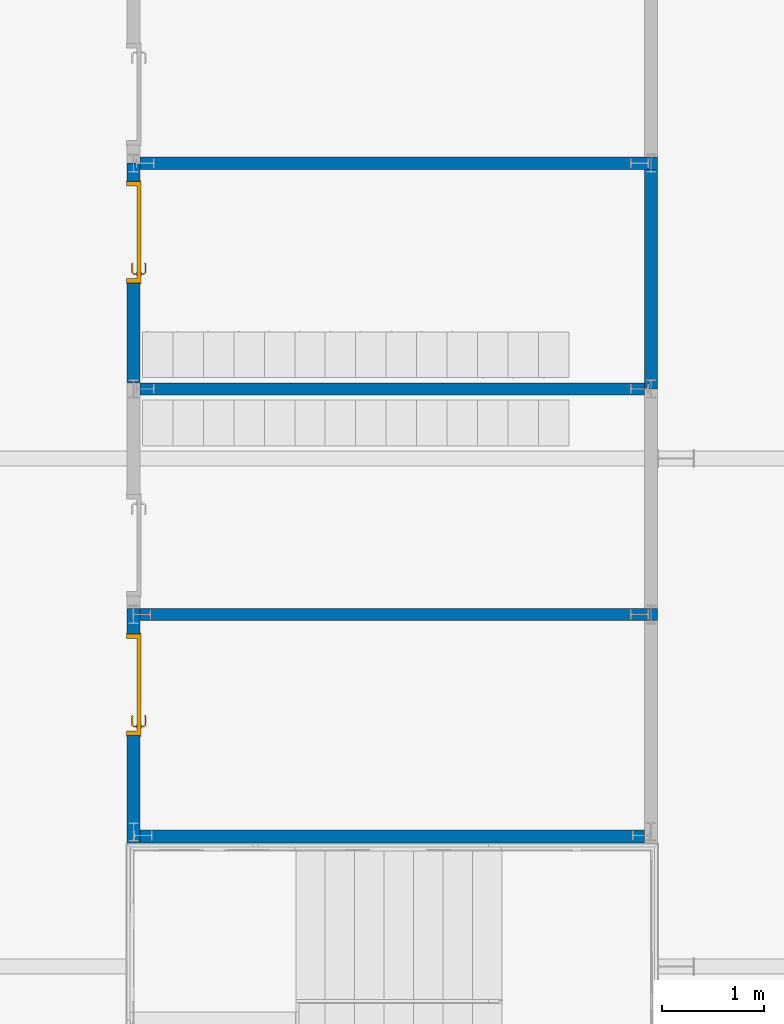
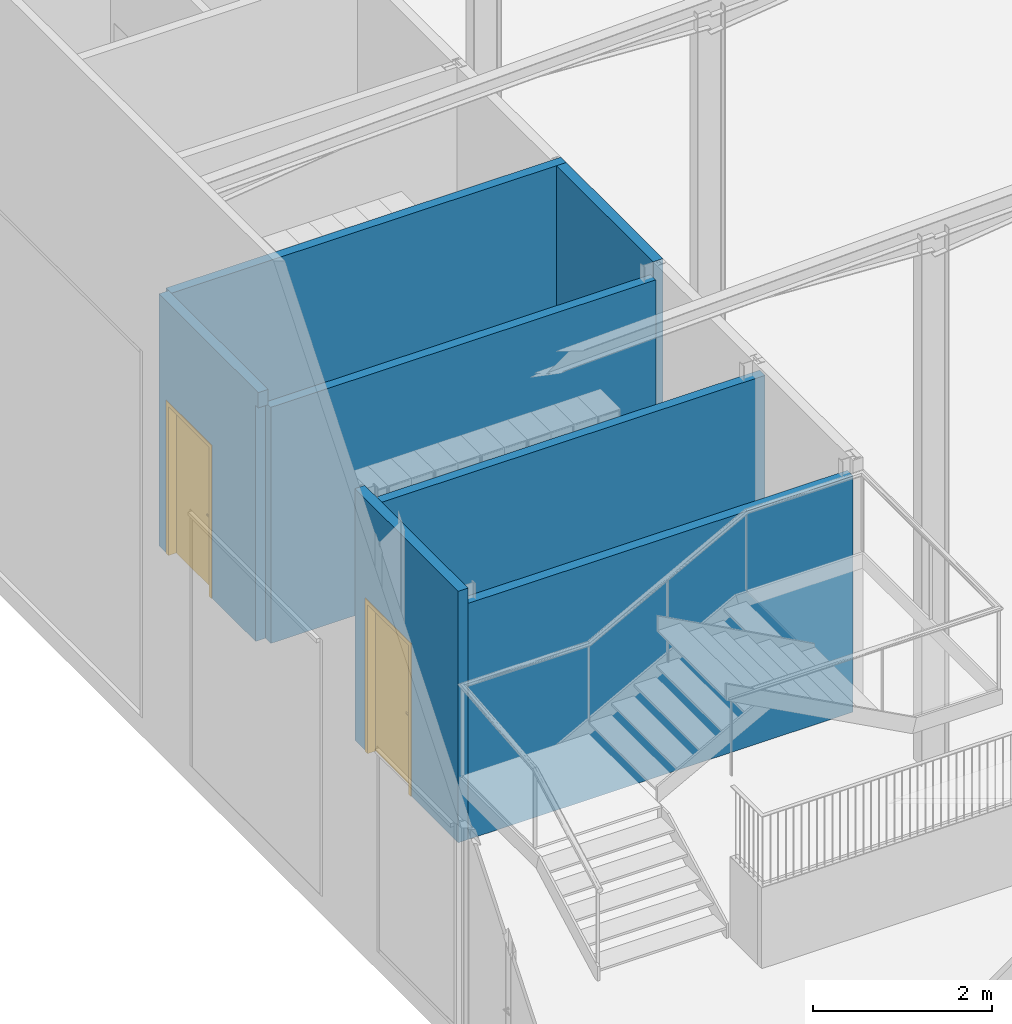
# One storey, part 48 of 137: 7 walls, 2 doors, 2 openings.
"""IFC2X3 building model written with IfcOpenShell, lengths in centimetres."""

from ifc_helpers import new_model, entity, si_unit, converted_unit, derived_unit, direction, frame, frame_2d, origin, place, context, subcontext, project, spatial, polyline, rectangle, extrude, clip, halfspace, bounded_halfspace, faceted_brep, source, transform, mapped, material, material_list, layer, layer_set, layer_usage, type_object, type_shapes, element, fill, save


model = new_model("IFC2X3")

# Units and contexts
model_context = context("Model", 3, precision=0.001, world=origin(), true_north=direction((6.12303176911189e-17, 1.0)))
body_context = subcontext(model_context, "Body", "Model", "MODEL_VIEW")
ifc_project = project(units=[si_unit("LENGTHUNIT", "METRE", prefix="CENTI"), si_unit("AREAUNIT", "SQUARE_METRE"), si_unit("VOLUMEUNIT", "CUBIC_METRE"), converted_unit("PLANEANGLEUNIT", "DEGREE", entity("IfcRatioMeasure", 0.0174532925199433), si_unit("PLANEANGLEUNIT", "RADIAN"), dimensions=[0, 0, 0, 0, 0, 0, 0]), si_unit("MASSUNIT", "GRAM", prefix="KILO"), si_unit("TIMEUNIT", "SECOND"), si_unit("FREQUENCYUNIT", "HERTZ"), si_unit("THERMODYNAMICTEMPERATUREUNIT", "DEGREE_CELSIUS"), derived_unit("THERMALTRANSMITTANCEUNIT", [(si_unit("MASSUNIT", "GRAM", prefix="KILO"), 1), (si_unit("THERMODYNAMICTEMPERATUREUNIT", "KELVIN"), -1), (si_unit("TIMEUNIT", "SECOND"), -3)]), derived_unit("VOLUMETRICFLOWRATEUNIT", [(si_unit("LENGTHUNIT", "METRE"), 3), (si_unit("TIMEUNIT", "SECOND"), -1)]), si_unit("ELECTRICCURRENTUNIT", "AMPERE"), si_unit("ELECTRICVOLTAGEUNIT", "VOLT"), si_unit("POWERUNIT", "WATT"), si_unit("FORCEUNIT", "NEWTON", prefix="KILO"), si_unit("ILLUMINANCEUNIT", "LUX"), si_unit("LUMINOUSFLUXUNIT", "LUMEN"), si_unit("LUMINOUSINTENSITYUNIT", "CANDELA"), derived_unit("USERDEFINED", [(si_unit("MASSUNIT", "GRAM", prefix="KILO"), -1), (si_unit("LENGTHUNIT", "METRE"), -2), (si_unit("TIMEUNIT", "SECOND"), 3), (si_unit("LUMINOUSFLUXUNIT", "LUMEN"), 1)]), derived_unit("LINEARVELOCITYUNIT", [(si_unit("LENGTHUNIT", "METRE"), 1), (si_unit("TIMEUNIT", "SECOND"), -1)]), si_unit("PRESSUREUNIT", "PASCAL"), derived_unit("USERDEFINED", [(si_unit("LENGTHUNIT", "METRE"), -2), (si_unit("MASSUNIT", "GRAM", prefix="KILO"), 1), (si_unit("TIMEUNIT", "SECOND"), -2)])], contexts=[model_context])

# Site, building, storey
site_placement = place(None, frame((8.62739174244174, -249.285249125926, 0.0)))
site = spatial("IfcSite", under=ifc_project, at=site_placement, Name="Default", CompositionType="ELEMENT")
building_placement = place(site_placement, origin())
building = spatial("IfcBuilding", under=site, at=building_placement, CompositionType="ELEMENT")
storey_placement = place(building_placement, origin())
storey = spatial("IfcBuildingStorey", under=building, at=storey_placement, Name="RDC", CompositionType="ELEMENT", Elevation=-8.82465566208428e-11)

# Wall, opening, door
ifc_material_1 = material(Name="Tôle/Doublage")
ifc_layer_1 = layer(ifc_material_1, 2.0)
ifc_material_2 = material(Name="Laine minérale")
ifc_layer_2 = layer(ifc_material_2, 9.5)
ifc_material_3 = material(Name="Plâtre_MU")
ifc_layer_3 = layer(ifc_material_3, 1.25)
ifc_layer_set_1 = layer_set([ifc_layer_1, ifc_layer_2, ifc_layer_3], Name="Mur de base:PLA 1.25 + ISO 9.5 + MET 4")
ifc_layer_usage_1 = layer_usage(ifc_layer_set_1, "AXIS2", "NEGATIVE", 6.375)
wall_type_1 = type_object("IfcWallType", Name="Mur de base:PLA 1.25 + ISO 9.5 + MET 4", PredefinedType="STANDARD", material=ifc_layer_set_1)
wall_1_placement = place(storey_placement, frame((1030.27982780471, 1483.73113155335, 0.0), z_axis=(0.0, 0.0, 1.0), x_axis=(0.0, 1.0, 0.0)))
wall_1 = element("IfcWallStandardCase", 1, at=wall_1_placement, inside=storey, type_object=wall_type_1, material=ifc_layer_usage_1, Name="Mur de base:PLA 1.25 + ISO 9.5 + MET 4", ObjectType="Mur de base:PLA 1.25 + ISO 9.5 + MET 4", context=body_context, shape_type="SweptSolid", body=[
    extrude(rectangle(XDim=230.749076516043, YDim=12.7500000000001, at=frame_2d((115.374538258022, 1.06581410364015e-14), x_axis=(-1.0, 0.0))), origin(), (0.0, 0.0, 1.0), 343.000000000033),
])
opening_1_placement = place(wall_1_placement, frame((205.56, 6.37500000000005, 0.0)))
opening_1 = element("IfcOpeningElement", 2, at=opening_1_placement, cuts=wall_1, Name="Simple(R)_bois_mu:93 x 204 cm:1", ObjectType="Opening", context=body_context, shape_type="SweptSolid", body=[
    extrude(rectangle(XDim=207.499999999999, YDim=99.9999999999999, at=frame_2d((103.749999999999, 50.0), x_axis=(1.0, 0.0))), frame((0.0, 0.0, 0.0), z_axis=(0.0, -1.0, 0.0), x_axis=(0.0, 0.0, 1.0)), (0.0, 0.0, 1.0), 12.75),
])
ifc_material_4 = material(Name="Porte - Poignée")
ifc_material_5 = material(Name="Porte - Cadre")
ifc_material_6 = material(Name="Porte - Panneau")
ifc_material_list_1 = material_list([ifc_material_4, ifc_material_5, ifc_material_6])
ifc_material_list_2 = material_list([ifc_material_4, ifc_material_5, ifc_material_6])
door_style = type_object("IfcDoorStyle", Name="93 x 204 cm", ConstructionType="NOTDEFINED", OperationType="SINGLE_SWING_RIGHT", ParameterTakesPrecedence=False, Sizeable=False, material=ifc_material_list_2)
shared_shape = source(origin(), body_context, "Body", "Brep", [
    faceted_brep([(8.79747013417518, 3.69999999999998, 100.778044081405), (8.3999999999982, 3.69999999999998, 100.699999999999), (8.39999999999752, 3.69999999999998, 99.2999999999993), (8.79747013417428, 3.69999999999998, 99.2219559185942), (9.20252986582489, 3.69999999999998, 99.2219559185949), (9.60000000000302, 3.69999999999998, 99.3000000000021), (9.60000000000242, 3.69999999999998, 100.699999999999), (9.2025298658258, 3.69999999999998, 100.778044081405), (9.60000000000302, 5.94852045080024, 99.3000000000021), (9.60000000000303, 5.94852045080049, 100.699999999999), (9.20252986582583, 6.11315797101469, 100.778044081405), (10.5838906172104, 7.49451872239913, 100.778044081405), (10.4161093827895, 7.89957845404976, 100.778044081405), (8.79747013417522, 6.2809392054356, 100.778044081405), (19.5684749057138, 6.84673156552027, 100.778044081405), (19.8548953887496, 7.13315204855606, 100.778044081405), (19.0884689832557, 7.89957845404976, 100.778044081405), (18.9206877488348, 7.49451872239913, 100.778044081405), (8.39999999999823, 6.44557672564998, 100.699999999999), (8.3999999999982, 6.44557672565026, 99.2999999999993), (8.79747013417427, 6.28093920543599, 99.2219559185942), (10.4161093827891, 7.8995784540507, 99.2219559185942), (10.58389061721, 7.49451872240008, 99.2219559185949), (9.20252986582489, 6.11315797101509, 99.2219559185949), (19.8548953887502, 7.13315204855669, 99.2219559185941), (19.5684749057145, 6.84673156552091, 99.2219559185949), (18.9206877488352, 7.49451872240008, 99.2219559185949), (19.088468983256, 7.8995784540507, 99.2219559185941), (10.7485281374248, 7.09704858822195, 99.3000000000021), (10.748528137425, 7.09704858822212, 100.699999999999), (10.2514718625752, 8.29704858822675, 100.699999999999), (10.2514718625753, 8.29704858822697, 99.2999999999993), (14.7522904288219, 7.09704858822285, 99.3000000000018), (18.7560502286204, 7.09704858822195, 99.3000000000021), (18.7560502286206, 7.09704858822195, 100.699999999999), (14.7522891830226, 7.09704858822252, 100.699999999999), (14.7522891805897, 7.71249275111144, 100.787811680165), (19.25310650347, 8.29704858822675, 100.699999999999), (15.2600577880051, 8.29704858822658, 100.699999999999), (19.2531065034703, 8.29704858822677, 99.2999999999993), (14.2445206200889, 8.29704858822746, 99.2999999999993), (14.7522892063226, 7.71249274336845, 99.2121883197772), (19.2874210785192, 6.56567773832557, 99.3000000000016), (20.1359492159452, 7.41420587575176, 99.2999999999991), (20.135949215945, 7.4142058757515, 100.699999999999), (19.287421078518, 6.5656777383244, 100.699999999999)], [[[0, 1, 2, 3, 4, 5, 6, 7]], [[6, 5, 8, 9]], [[9, 10, 7, 6]], [[10, 11, 12, 13, 0, 7]], [[14, 15, 16, 17]], [[13, 18, 1, 0]], [[2, 1, 18, 19]], [[19, 20, 3, 2]], [[20, 21, 22, 23, 4, 3]], [[24, 25, 26, 27]], [[23, 8, 5, 4]], [[9, 8, 28, 29]], [[29, 11, 10, 9]], [[12, 30, 18, 13]], [[19, 18, 30, 31]], [[31, 21, 20, 19]], [[22, 28, 8, 23]], [[29, 28, 32, 33, 34, 35]], [[11, 35, 36]], [[16, 37, 38]], [[30, 12, 38]], [[38, 12, 36]], [[36, 35, 17]], [[17, 16, 36]], [[35, 11, 29]], [[34, 17, 35]], [[11, 36, 12]], [[38, 36, 16]], [[31, 30, 38, 37, 39, 40]], [[40, 41, 21]], [[41, 40, 27]], [[21, 31, 40]], [[39, 27, 40]], [[41, 32, 22]], [[22, 21, 41]], [[26, 32, 41]], [[28, 22, 32]], [[32, 26, 33]], [[26, 41, 27]], [[42, 25, 24, 43, 44, 15, 14, 45]], [[34, 33, 42, 45]], [[45, 14, 17, 34]], [[15, 44, 37, 16]], [[39, 37, 44, 43]], [[43, 24, 27, 39]], [[25, 42, 33, 26]]]),
    faceted_brep([(8.79747013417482, -1.30000000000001, 100.778044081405), (9.20252986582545, -1.30000000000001, 100.778044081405), (9.6000000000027, -1.30000000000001, 100.699999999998), (9.60000000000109, -1.30000000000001, 99.3000000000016), (9.20252986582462, -1.30000000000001, 99.2219559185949), (8.79747013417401, -1.30000000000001, 99.2219559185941), (8.39999999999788, -1.30000000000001, 99.2999999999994), (8.39999999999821, -1.30000000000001, 100.699999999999), (8.39999999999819, -4.06509507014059, 100.699999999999), (8.7974701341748, -3.90045754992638, 100.778044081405), (10.402358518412, -5.50534593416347, 100.778044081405), (10.5701397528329, -5.10028620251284, 100.778044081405), (9.20252986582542, -3.73267631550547, 100.778044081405), (19.852181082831, -4.73891952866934, 100.778044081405), (19.5657605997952, -4.4524990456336, 100.778044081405), (18.9179734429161, -5.10028620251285, 100.778044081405), (19.085754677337, -5.50534593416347, 100.778044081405), (9.60000000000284, -3.56803879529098, 100.699999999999), (9.6000000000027, -3.56803879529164, 99.3000000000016), (9.20252986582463, -3.7326763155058, 99.2219559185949), (10.5701397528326, -5.10028620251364, 99.2219559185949), (10.4023585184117, -5.50534593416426, 99.2219559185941), (8.79747013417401, -3.9004575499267, 99.2219559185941), (19.5657605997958, -4.45249904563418, 99.2219559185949), (19.8521810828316, -4.73891952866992, 99.2219559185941), (19.0857546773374, -5.50534593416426, 99.2219559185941), (18.9179734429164, -5.10028620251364, 99.2219559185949), (8.39999999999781, -4.06509507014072, 99.2999999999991), (10.2377209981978, -5.90281606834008, 100.699999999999), (10.7347772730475, -4.70281606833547, 100.699999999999), (10.7347772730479, -4.70281606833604, 99.3000000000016), (10.2377209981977, -5.90281606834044, 99.2999999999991), (14.2307697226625, -5.90281606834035, 100.699999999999), (14.7440566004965, -5.31828027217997, 100.787811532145), (19.2503921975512, -5.90281606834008, 100.699999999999), (14.7440565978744, -4.70281606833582, 100.699999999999), (18.7533359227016, -4.70281606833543, 100.699999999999), (18.7533359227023, -4.70281606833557, 99.3000000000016), (14.7440563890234, -4.70281606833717, 99.3000000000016), (14.744056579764, -5.31828027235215, 99.2121884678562), (19.2503921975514, -5.90281606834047, 99.2999999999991), (15.2573433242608, -5.90281606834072, 99.2999999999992), (19.2847067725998, -4.1714452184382, 100.699999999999), (20.1332349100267, -5.01997335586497, 100.699999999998), (20.1332349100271, -5.01997335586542, 99.2999999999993), (19.2847067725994, -4.17144521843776, 99.3000000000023)], [[[0, 1, 2, 3, 4, 5, 6, 7]], [[8, 9, 0, 7]], [[9, 10, 11, 12, 1, 0]], [[13, 14, 15, 16]], [[12, 17, 2, 1]], [[3, 2, 17, 18]], [[18, 19, 4, 3]], [[19, 20, 21, 22, 5, 4]], [[23, 24, 25, 26]], [[22, 27, 6, 5]], [[7, 6, 27, 8]], [[28, 10, 9, 8]], [[11, 29, 17, 12]], [[18, 17, 29, 30]], [[30, 20, 19, 18]], [[21, 31, 27, 22]], [[8, 27, 31, 28]], [[32, 33, 10]], [[33, 32, 16]], [[10, 28, 32]], [[34, 16, 32]], [[33, 35, 11]], [[11, 10, 33]], [[15, 35, 33]], [[29, 11, 35]], [[35, 15, 36]], [[15, 33, 16]], [[30, 29, 35, 36, 37, 38]], [[20, 38, 39]], [[25, 40, 41]], [[31, 21, 41]], [[41, 21, 39]], [[39, 38, 26]], [[26, 25, 39]], [[38, 20, 30]], [[37, 26, 38]], [[20, 39, 21]], [[41, 39, 25]], [[28, 31, 41, 40, 34, 32]], [[42, 14, 13, 43, 44, 24, 23, 45]], [[43, 13, 16, 34]], [[14, 42, 36, 15]], [[37, 36, 42, 45]], [[45, 23, 26, 37]], [[24, 44, 40, 25]], [[34, 40, 44, 43]]]),
    faceted_brep([(10.03527618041, 3.19999999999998, 86.6003983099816), (11.0, 3.19999999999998, 87.0), (11.0, 3.19999999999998, 108.0), (10.03527618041, 3.19999999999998, 108.399601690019), (9.0, 3.19999999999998, 108.535898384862), (7.96472381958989, 3.19999999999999, 108.399601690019), (7.0, 3.19999999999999, 108.0), (7.0, 3.19999999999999, 87.0), (7.96472381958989, 3.19999999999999, 86.6003983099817), (9.0, 3.19999999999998, 86.4641016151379), (10.03527618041, 3.69999999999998, 108.399601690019), (11.0, 3.69999999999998, 108.0), (11.0, 3.69999999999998, 87.0), (10.03527618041, 3.69999999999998, 86.6003983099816), (9.0, 3.69999999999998, 86.4641016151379), (7.96472381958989, 3.69999999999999, 86.6003983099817), (7.0, 3.69999999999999, 87.0), (7.0, 3.69999999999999, 108.0), (7.96472381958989, 3.69999999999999, 108.399601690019), (9.0, 3.69999999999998, 108.535898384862)], [[[0, 1, 2, 3, 4, 5, 6, 7, 8, 9]], [[10, 11, 12, 13, 14, 15, 16, 17, 18, 19]], [[11, 10, 3, 2]], [[3, 10, 19, 4]], [[19, 18, 5, 4]], [[18, 17, 6, 5]], [[7, 6, 17, 16]], [[16, 15, 8, 7]], [[8, 15, 14, 9]], [[14, 13, 0, 9]], [[13, 12, 1, 0]], [[2, 1, 12, 11]]]),
    faceted_brep([(10.03527618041, -1.30000000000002, 86.6003983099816), (11.0, -1.30000000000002, 87.0), (11.0, -1.30000000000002, 108.0), (10.03527618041, -1.30000000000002, 108.399601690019), (9.0, -1.30000000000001, 108.535898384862), (7.9647238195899, -1.30000000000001, 108.399601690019), (7.0, -1.30000000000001, 108.0), (7.0, -1.30000000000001, 87.0), (7.96472381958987, -1.30000000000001, 86.6003983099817), (9.0, -1.30000000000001, 86.4641016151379), (10.03527618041, -0.800000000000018, 108.399601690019), (11.0, -0.80000000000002, 108.0), (11.0, -0.80000000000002, 87.0), (10.03527618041, -0.800000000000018, 86.6003983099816), (9.0, -0.800000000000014, 86.4641016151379), (7.96472381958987, -0.800000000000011, 86.6003983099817), (7.0, -0.800000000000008, 87.0), (7.0, -0.800000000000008, 108.0), (7.9647238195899, -0.800000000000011, 108.399601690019), (9.0, -0.800000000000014, 108.535898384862)], [[[0, 1, 2, 3, 4, 5, 6, 7, 8, 9]], [[10, 11, 12, 13, 14, 15, 16, 17, 18, 19]], [[16, 15, 8, 7]], [[8, 15, 14, 9]], [[14, 13, 0, 9]], [[13, 12, 1, 0]], [[2, 1, 12, 11]], [[11, 10, 3, 2]], [[3, 10, 19, 4]], [[19, 18, 5, 4]], [[18, 17, 6, 5]], [[7, 6, 17, 16]]]),
    faceted_brep([(0.0, 0.0, 0.0), (0.0, 12.750000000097, 0.0), (-1.0, 12.750000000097, 0.0), (-1.0, 13.5500000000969, 0.0), (4.49999999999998, 13.5500000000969, 0.0), (4.49999999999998, 3.2, 0.0), (3.49999999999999, 3.2, 0.0), (3.49999999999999, -0.799999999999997, 0.0), (-1.0, -0.799999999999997, 0.0), (-1.0, 0.0, 0.0), (0.0, 0.0, 207.499999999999), (0.0, 12.750000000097, 207.499999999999), (100.0, 12.750000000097, 207.499999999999), (100.0, 12.750000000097, 0.0), (101.0, 12.750000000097, 0.0), (101.0, 12.750000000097, 208.499999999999), (-1.0, 12.750000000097, 208.499999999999), (-1.0, 13.5500000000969, 208.499999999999), (101.0, 13.5500000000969, 208.499999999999), (101.0, 13.5500000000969, 0.0), (95.5, 13.5500000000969, 0.0), (95.5, 13.5500000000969, 203.0), (4.49999999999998, 13.5500000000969, 203.0), (4.49999999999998, 3.2, 203.0), (95.5, 3.2, 203.0), (95.5, 3.2, 0.0), (96.5, 3.2, 0.0), (96.5, 3.2, 204.0), (3.49999999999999, 3.2, 204.0), (3.49999999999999, -0.799999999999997, 204.0), (96.5, -0.799999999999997, 204.0), (96.5, -0.799999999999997, 0.0), (101.0, -0.799999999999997, 0.0), (101.0, -0.799999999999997, 208.499999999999), (-1.0, -0.799999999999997, 208.499999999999), (-1.0, 0.0, 208.499999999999), (101.0, 0.0, 208.499999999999), (101.0, 0.0, 0.0), (100.0, 0.0, 0.0), (100.0, 0.0, 207.499999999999)], [[[0, 1, 2, 3, 4, 5, 6, 7, 8, 9]], [[1, 0, 10, 11]], [[2, 1, 11, 12, 13, 14, 15, 16]], [[3, 2, 16, 17]], [[4, 3, 17, 18, 19, 20, 21, 22]], [[5, 4, 22, 23]], [[6, 5, 23, 24, 25, 26, 27, 28]], [[7, 6, 28, 29]], [[8, 7, 29, 30, 31, 32, 33, 34]], [[9, 8, 34, 35]], [[0, 9, 35, 36, 37, 38, 39, 10]], [[12, 39, 38, 13]], [[38, 37, 32, 31, 26, 25, 20, 19, 14, 13]], [[18, 15, 14, 19]], [[24, 21, 20, 25]], [[30, 27, 26, 31]], [[36, 33, 32, 37]], [[11, 10, 39, 12]], [[17, 16, 15, 18]], [[23, 22, 21, 24]], [[29, 28, 27, 30]], [[35, 34, 33, 36]]]),
    faceted_brep([(3.49999999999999, -0.799999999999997, 204.0), (3.49999999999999, -0.799999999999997, 0.0), (96.5, -0.799999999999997, 0.0), (96.5, -0.799999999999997, 204.0), (3.49999999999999, 3.2, 204.0), (96.5, 3.2, 204.0), (96.5, 3.2, 0.0), (3.49999999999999, 3.2, 0.0)], [[[0, 1, 2, 3]], [[4, 5, 6, 7]], [[1, 0, 4, 7]], [[2, 1, 7, 6]], [[3, 2, 6, 5]], [[0, 3, 5, 4]]]),
])
type_shapes(door_style, [shared_shape])
door_1_placement = place(opening_1_placement, frame((-100.0, -12.7500000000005, 0.0)))
door_1 = element("IfcDoor", 3, at=door_1_placement, inside=storey, type_object=door_style, material=ifc_material_list_1, Name="Simple(R)_bois_mu:93 x 204 cm", ObjectType="93 x 204 cm", OverallHeight=207.499999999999, OverallWidth=100.0, context=body_context, shape_type="MappedRepresentation", body=[
    mapped(shared_shape, transform((0.0, 0.0, 0.0), scale=1.0)),
])
fill(opening_1, door_1)

# Wall
ifc_layer_usage_2 = layer_usage(ifc_layer_set_1, "AXIS2", "NEGATIVE", 6.375)
wall_2_placement = place(storey_placement, frame((1533.15482780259, 1490.10613155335, 0.0), z_axis=(0.0, 0.0, 1.0), x_axis=(-1.0, 0.0, 0.0)))
element("IfcWallStandardCase", 4, at=wall_2_placement, inside=storey, type_object=wall_type_1, material=ifc_layer_usage_2, Name="Mur de base:PLA 1.25 + ISO 9.5 + MET 4", ObjectType="Mur de base:PLA 1.25 + ISO 9.5 + MET 4", context=body_context, shape_type="Clipping", body=[
    clip(extrude(rectangle(XDim=496.499999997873, YDim=12.7500000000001, at=frame_2d((248.249999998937, -4.21884749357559e-14), x_axis=(-1.0, 0.0))), origin(), (0.0, 0.0, 1.0), 322.000000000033), bounded_halfspace(frame((0.0, -6.37499999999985, 322.0), z_axis=(0.0, 0.0, -1.0), x_axis=(0.0, 1.0, 0.0)), True, frame((0.0, -6.37499999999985, 322.0)), polyline([(0.0, 0.0), (496.499999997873, 0.0), (496.499999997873, 12.7499999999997), (0.0, 12.7499999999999), (0.0, 0.0)]))),
])

# Wall, opening, door
wall_3_placement = place(storey_placement, frame((1030.27982780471, 1930.48020806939, 0.0), z_axis=(0.0, 0.0, 1.0), x_axis=(0.0, 1.0, 0.0)))
wall_3 = element("IfcWall", 5, at=wall_3_placement, inside=storey, type_object=wall_type_1, Name="Mur de base:PLA 1.25 + ISO 9.5 + MET 4", ObjectType="Mur de base:PLA 1.25 + ISO 9.5 + MET 4", context=body_context, shape_type="Brep", body=[
    faceted_brep([(222.0, -6.37499999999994, 0.0), (222.0, -6.37499999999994, 343.0), (0.0, -6.37499999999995, 343.0), (0.0, -6.37499999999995, 322.0), (6.0, -6.37499999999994, 322.0), (6.0, -6.37499999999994, 0.0), (104.0, -6.37499999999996, 0.0), (104.0, -6.37499999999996, 207.499999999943), (204.0, -6.37499999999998, 207.499999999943), (204.0, -6.37499999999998, 0.0), (222.0, 6.37499999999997, 343.0), (222.0, 6.37499999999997, 0.0), (204.0, 6.37499999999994, 0.0), (204.0, 6.37499999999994, 207.499999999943), (104.0, 6.37499999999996, 207.499999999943), (104.0, 6.37499999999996, 0.0), (6.0, 6.37499999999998, 0.0), (6.0, 6.37499999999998, 322.0), (0.0, 6.37499999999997, 322.0), (0.0, 6.37499999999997, 343.0)], [[[0, 1, 2, 3, 4, 5, 6, 7, 8, 9]], [[10, 11, 12, 13, 14, 15, 16, 17, 18, 19]], [[8, 13, 12, 9]], [[13, 8, 7, 14]], [[14, 7, 6, 15]], [[5, 4, 17, 16]], [[5, 16, 15, 6]], [[1, 0, 11, 10]], [[2, 1, 10, 19]], [[3, 2, 19, 18]], [[3, 18, 17, 4]], [[11, 0, 9, 12]]]),
])
opening_2_placement = place(wall_3_placement, frame((204.0, 6.37500000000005, 0.0)))
opening_2 = element("IfcOpeningElement", 6, at=opening_2_placement, cuts=wall_3, Name="Simple(R)_bois_mu:93 x 204 cm:1", ObjectType="Opening", context=body_context, shape_type="SweptSolid", body=[
    extrude(rectangle(XDim=207.499999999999, YDim=99.9999999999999, at=frame_2d((103.749999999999, 50.0), x_axis=(1.0, 0.0))), frame((0.0, 0.0, 0.0), z_axis=(0.0, -1.0, 0.0), x_axis=(0.0, 0.0, 1.0)), (0.0, 0.0, 1.0), 12.75),
])
ifc_material_list_3 = material_list([ifc_material_4, ifc_material_5, ifc_material_6])
door_2_placement = place(opening_2_placement, frame((-100.0, -12.7500000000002, 0.0)))
door_2 = element("IfcDoor", 7, at=door_2_placement, inside=storey, type_object=door_style, material=ifc_material_list_3, Name="Simple(R)_bois_mu:93 x 204 cm", ObjectType="93 x 204 cm", OverallHeight=207.499999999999, OverallWidth=99.9999999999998, context=body_context, shape_type="MappedRepresentation", body=[
    mapped(shared_shape, transform((0.0, 0.0, 0.0), scale=1.0)),
])
fill(opening_2, door_2)

# Walls
ifc_layer_usage_3 = layer_usage(ifc_layer_set_1, "AXIS2", "NEGATIVE", 6.375)
wall_4_placement = place(storey_placement, frame((1539.52982780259, 2146.48020806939, 0.0), z_axis=(0.0, 0.0, 1.0), x_axis=(0.0, -1.0, 0.0)))
element("IfcWallStandardCase", 8, at=wall_4_placement, inside=storey, type_object=wall_type_1, material=ifc_layer_usage_3, Name="Mur de base:PLA 1.25 + ISO 9.5 + MET 4", ObjectType="Mur de base:PLA 1.25 + ISO 9.5 + MET 4", context=body_context, shape_type="Clipping", body=[
    clip(extrude(rectangle(XDim=215.999999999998, YDim=12.7500000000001, at=frame_2d((107.999999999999, -3.99680288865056e-15), x_axis=(-1.0, 0.0))), origin(), (0.0, 0.0, 1.0), 343.000000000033), halfspace(frame((0.0, -6.37499999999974, 343.0), z_axis=(0.0, 0.0, 1.0), x_axis=(0.0, 1.0, 0.0)), False)),
])
ifc_layer_4 = layer(ifc_material_3, 1.25)
ifc_layer_5 = layer(ifc_material_2, 9.5)
ifc_layer_6 = layer(ifc_material_3, 1.25)
ifc_layer_set_2 = layer_set([ifc_layer_4, ifc_layer_5, ifc_layer_6], Name="Mur de base:ISO 10 + MET 2")
ifc_layer_usage_4 = layer_usage(ifc_layer_set_2, "AXIS2", "NEGATIVE", 6.0)
wall_type_2 = type_object("IfcWallType", Name="Mur de base:ISO 10 + MET 2", PredefinedType="STANDARD", material=ifc_layer_set_2)
wall_5_placement = place(storey_placement, frame((1036.65482780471, 1708.48020806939, 0.0)))
element("IfcWallStandardCase", 9, at=wall_5_placement, inside=storey, type_object=wall_type_2, material=ifc_layer_usage_4, Name="Mur de base:ISO 10 + MET 2", ObjectType="Mur de base:ISO 10 + MET 2", context=body_context, shape_type="Clipping", body=[
    clip(extrude(rectangle(XDim=509.249999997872, YDim=11.9999999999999, at=frame_2d((254.624999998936, -2.08721928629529e-14), x_axis=(-1.0, 0.0))), origin(), (0.0, 0.0, 1.0), 322.000000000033), bounded_halfspace(frame((0.0, -6.0, 322.0), z_axis=(0.0, 0.0, -1.0), x_axis=(0.0, -1.0, 0.0)), True, frame((0.0, -6.0, 322.0)), polyline([(0.0, 0.0), (496.499999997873, 0.0), (496.499999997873, 12.0), (0.0, 12.0), (0.0, 6.0), (0.0, 0.0)]))),
])
ifc_layer_usage_5 = layer_usage(ifc_layer_set_2, "AXIS2", "NEGATIVE", 6.0)
wall_6_placement = place(storey_placement, frame((1036.65482780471, 2152.48020806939, 0.0)))
element("IfcWallStandardCase", 10, at=wall_6_placement, inside=storey, type_object=wall_type_2, material=ifc_layer_usage_5, Name="Mur de base:ISO 10 + MET 2", ObjectType="Mur de base:ISO 10 + MET 2", context=body_context, shape_type="Clipping", body=[
    clip(extrude(rectangle(XDim=509.249999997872, YDim=11.9999999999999, at=frame_2d((254.624999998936, -2.08721928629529e-14), x_axis=(-1.0, 0.0))), origin(), (0.0, 0.0, 1.0), 343.000000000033), halfspace(frame((0.0, -6.0, 343.0), z_axis=(0.0, 0.0, 1.0), x_axis=(0.0, 1.0, 0.0)), False)),
])
ifc_layer_usage_6 = layer_usage(ifc_layer_set_2, "AXIS2", "POSITIVE", -6.0)
wall_7_placement = place(storey_placement, frame((1533.15482780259, 1930.48020806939, 0.0), z_axis=(0.0, 0.0, 1.0), x_axis=(-1.0, 0.0, 0.0)))
element("IfcWallStandardCase", 11, at=wall_7_placement, inside=storey, type_object=wall_type_2, material=ifc_layer_usage_6, Name="Mur de base:ISO 10 + MET 2", ObjectType="Mur de base:ISO 10 + MET 2", context=body_context, shape_type="Clipping", body=[
    clip(extrude(rectangle(XDim=496.499999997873, YDim=11.9999999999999, at=frame_2d((248.249999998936, -3.90798504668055e-14), x_axis=(-1.0, 0.0))), origin(), (0.0, 0.0, 1.0), 322.000000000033), bounded_halfspace(frame((496.499999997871, -4.0, 322.0), z_axis=(0.0, 0.0, -1.0), x_axis=(0.0, 1.0, 0.0)), True, frame((496.499999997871, -4.0, 322.0)), polyline([(0.0, 0.0), (0.0, 4.0), (0.0, 10.0), (-496.499999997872, 10.0), (-496.499999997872, 4.0), (-496.499999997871, 0.0), (0.0, 0.0)]))),
])

save(model, "model.ifc")
